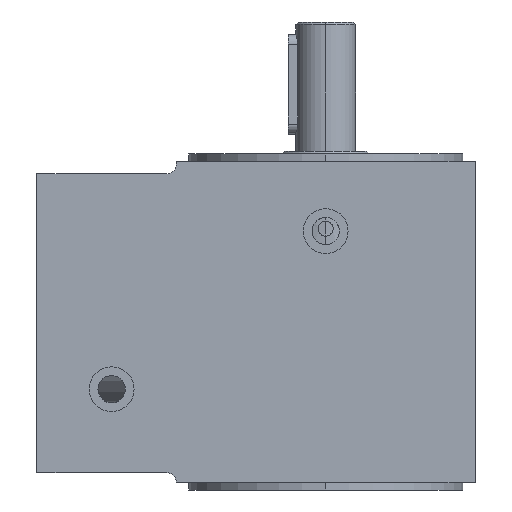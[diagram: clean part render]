
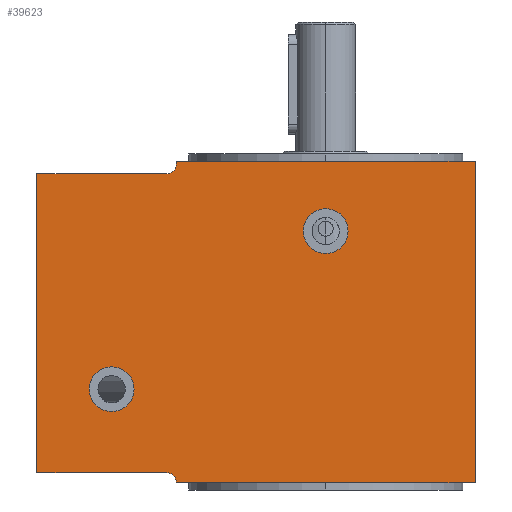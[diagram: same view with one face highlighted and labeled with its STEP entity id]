
A CAD part, left-side view. The second image highlights one B-rep face of the part: STEP entity #39623.
In plain terms, the highlighted planar face has unit normal (-1, 0, 0).
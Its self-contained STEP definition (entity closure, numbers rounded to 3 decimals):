
#366 = CARTESIAN_POINT ( 'NONE',  ( -69.952, 74.052, -53.525 ) ) ;
#542 = EDGE_CURVE ( 'NONE', #31078, #17754, #38828, .T. ) ;
#612 = AXIS2_PLACEMENT_3D ( 'NONE', #17945, #17891, #17794 ) ;
#1547 = CARTESIAN_POINT ( 'NONE',  ( -69.952, 39.052, 37.975 ) ) ;
#2292 = EDGE_CURVE ( 'NONE', #31782, #45188, #26033, .T. ) ;
#2301 = EDGE_CURVE ( 'NONE', #31782, #42775, #26654, .T. ) ;
#2344 = DIRECTION ( 'NONE',  ( 0., 1., 0. ) ) ;
#2433 = EDGE_CURVE ( 'NONE', #42775, #31410, #25262, .T. ) ;
#2532 = CARTESIAN_POINT ( 'NONE',  ( -69.952, 43.052, 32.975 ) ) ;
#2568 = EDGE_CURVE ( 'NONE', #36330, #31410, #24500, .T. ) ;
#2867 = EDGE_CURVE ( 'NONE', #36330, #5887, #22437, .T. ) ;
#2990 = EDGE_CURVE ( 'NONE', #5887, #17754, #21482, .T. ) ;
#3052 = EDGE_CURVE ( 'NONE', #31078, #41292, #21715, .T. ) ;
#3196 = EDGE_CURVE ( 'NONE', #41292, #45188, #20173, .T. ) ;
#4294 = CARTESIAN_POINT ( 'NONE',  ( -69.952, 56.052, -53.525 ) ) ;
#5186 = EDGE_CURVE ( 'NONE', #6718, #13200, #7958, .T. ) ;
#5311 = DIRECTION ( 'NONE',  ( 0., 0., 1. ) ) ;
#5340 = DIRECTION ( 'NONE',  ( 1., 0., 0. ) ) ;
#5387 = EDGE_CURVE ( 'NONE', #39405, #11529, #6885, .T. ) ;
#5400 = CARTESIAN_POINT ( 'NONE',  ( -69.952, 43.052, 36.975 ) ) ;
#5887 = VERTEX_POINT ( 'NONE', #32218 ) ;
#6099 = DIRECTION ( 'NONE',  ( 0., 0., -1. ) ) ;
#6154 = DIRECTION ( 'NONE',  ( 1., 0., 0. ) ) ;
#6475 = DIRECTION ( 'NONE',  ( 0., 1., 0. ) ) ;
#6487 = CARTESIAN_POINT ( 'NONE',  ( -69.952, -80.948, 37.975 ) ) ;
#6718 = VERTEX_POINT ( 'NONE', #9691 ) ;
#6885 = CIRCLE ( 'NONE', #30237, 9. ) ;
#7005 = ORIENTED_EDGE ( 'NONE', *, *, #43925, .F. ) ;
#7015 = EDGE_LOOP ( 'NONE', ( #22277, #22192 ) ) ;
#7215 = CARTESIAN_POINT ( 'NONE',  ( -69.952, 43.052, 32.975 ) ) ;
#7958 = CIRCLE ( 'NONE', #29692, 9. ) ;
#7967 = ORIENTED_EDGE ( 'NONE', *, *, #2301, .T. ) ;
#8399 = DIRECTION ( 'NONE',  ( 0., 0., 1. ) ) ;
#8408 = CARTESIAN_POINT ( 'NONE',  ( -69.952, -80.948, -91.025 ) ) ;
#9510 = PLANE ( 'NONE',  #32255 ) ;
#9691 = CARTESIAN_POINT ( 'NONE',  ( -69.952, -11.948, 9.975 ) ) ;
#9721 = CARTESIAN_POINT ( 'NONE',  ( -69.952, 43.052, 32.975 ) ) ;
#11175 = AXIS2_PLACEMENT_3D ( 'NONE', #18733, #18679, #18647 ) ;
#11529 = VERTEX_POINT ( 'NONE', #4294 ) ;
#11608 = ORIENTED_EDGE ( 'NONE', *, *, #542, .F. ) ;
#12550 = DIRECTION ( 'NONE',  ( 0., -1., 0. ) ) ;
#12646 = DIRECTION ( 'NONE',  ( -1., 0., 0. ) ) ;
#12698 = CARTESIAN_POINT ( 'NONE',  ( -69.952, -20.948, 9.975 ) ) ;
#13200 = VERTEX_POINT ( 'NONE', #32976 ) ;
#15212 = CARTESIAN_POINT ( 'NONE',  ( -69.952, -20.948, 9.975 ) ) ;
#16317 = DIRECTION ( 'NONE',  ( 0., 1., 0. ) ) ;
#16327 = CARTESIAN_POINT ( 'NONE',  ( -69.952, -80.948, -91.025 ) ) ;
#17754 = VERTEX_POINT ( 'NONE', #1547 ) ;
#17794 = DIRECTION ( 'NONE',  ( 0., -1., 0. ) ) ;
#17891 = DIRECTION ( 'NONE',  ( -1., 0., 0. ) ) ;
#17945 = CARTESIAN_POINT ( 'NONE',  ( -69.952, 65.052, -53.525 ) ) ;
#18647 = DIRECTION ( 'NONE',  ( 0., 0., 1. ) ) ;
#18679 = DIRECTION ( 'NONE',  ( 1., 0., 0. ) ) ;
#18733 = CARTESIAN_POINT ( 'NONE',  ( -69.952, 43.052, -91.025 ) ) ;
#18987 = DIRECTION ( 'NONE',  ( -1., 0., 0. ) ) ;
#19305 = CARTESIAN_POINT ( 'NONE',  ( -69.952, 95.052, -87.025 ) ) ;
#19752 = VECTOR ( 'NONE', #2344, 1000. ) ;
#19801 = DIRECTION ( 'NONE',  ( 0., -1., 0. ) ) ;
#20173 = LINE ( 'NONE', #2532, #19752 ) ;
#20840 = DIRECTION ( 'NONE',  ( 0., -1., 0. ) ) ;
#20880 = DIRECTION ( 'NONE',  ( 0., 0., 1. ) ) ;
#20996 = DIRECTION ( 'NONE',  ( 0., 0., 1. ) ) ;
#21027 = CARTESIAN_POINT ( 'NONE',  ( -69.952, 39.052, 32.975 ) ) ;
#21091 = CARTESIAN_POINT ( 'NONE',  ( -69.952, 43.052, -87.025 ) ) ;
#21385 = CARTESIAN_POINT ( 'NONE',  ( -69.952, 95.052, -87.025 ) ) ;
#21482 = LINE ( 'NONE', #6487, #21602 ) ;
#21602 = VECTOR ( 'NONE', #6475, 1000. ) ;
#21715 = CIRCLE ( 'NONE', #26933, 4. ) ;
#22192 = ORIENTED_EDGE ( 'NONE', *, *, #5186, .F. ) ;
#22277 = ORIENTED_EDGE ( 'NONE', *, *, #44132, .F. ) ;
#22437 = LINE ( 'NONE', #8408, #22746 ) ;
#22746 = VECTOR ( 'NONE', #8399, 1000. ) ;
#23652 = CIRCLE ( 'NONE', #612, 9. ) ;
#24274 = VECTOR ( 'NONE', #16317, 1000. ) ;
#24500 = LINE ( 'NONE', #16327, #24274 ) ;
#25262 = CIRCLE ( 'NONE', #11175, 4. ) ;
#25876 = VECTOR ( 'NONE', #20840, 1000. ) ;
#25969 = VECTOR ( 'NONE', #20996, 1000. ) ;
#26033 = LINE ( 'NONE', #21385, #25969 ) ;
#26294 = ORIENTED_EDGE ( 'NONE', *, *, #3052, .T. ) ;
#26324 = CARTESIAN_POINT ( 'NONE',  ( -69.952, 39.052, -91.025 ) ) ;
#26389 = CIRCLE ( 'NONE', #27555, 9. ) ;
#26654 = LINE ( 'NONE', #21091, #25876 ) ;
#26933 = AXIS2_PLACEMENT_3D ( 'NONE', #5400, #5340, #5311 ) ;
#27252 = ORIENTED_EDGE ( 'NONE', *, *, #2990, .T. ) ;
#27555 = AXIS2_PLACEMENT_3D ( 'NONE', #12698, #12646, #12550 ) ;
#28579 = ORIENTED_EDGE ( 'NONE', *, *, #5387, .F. ) ;
#28600 = ORIENTED_EDGE ( 'NONE', *, *, #2568, .F. ) ;
#29692 = AXIS2_PLACEMENT_3D ( 'NONE', #15212, #18987, #19801 ) ;
#30237 = AXIS2_PLACEMENT_3D ( 'NONE', #44406, #44417, #44455 ) ;
#31078 = VERTEX_POINT ( 'NONE', #36214 ) ;
#31410 = VERTEX_POINT ( 'NONE', #26324 ) ;
#31782 = VERTEX_POINT ( 'NONE', #19305 ) ;
#32218 = CARTESIAN_POINT ( 'NONE',  ( -69.952, -80.948, 37.975 ) ) ;
#32255 = AXIS2_PLACEMENT_3D ( 'NONE', #7215, #6154, #6099 ) ;
#32976 = CARTESIAN_POINT ( 'NONE',  ( -69.952, -29.948, 9.975 ) ) ;
#36214 = CARTESIAN_POINT ( 'NONE',  ( -69.952, 39.052, 36.975 ) ) ;
#36330 = VERTEX_POINT ( 'NONE', #37995 ) ;
#37590 = EDGE_LOOP ( 'NONE', ( #7005, #28579 ) ) ;
#37933 = EDGE_LOOP ( 'NONE', ( #43607, #7967, #44021, #28600, #39879, #27252, #11608, #26294, #39422 ) ) ;
#37995 = CARTESIAN_POINT ( 'NONE',  ( -69.952, -80.948, -91.025 ) ) ;
#38686 = CARTESIAN_POINT ( 'NONE',  ( -69.952, 43.052, -87.025 ) ) ;
#38828 = LINE ( 'NONE', #21027, #39288 ) ;
#39288 = VECTOR ( 'NONE', #20880, 1000. ) ;
#39405 = VERTEX_POINT ( 'NONE', #366 ) ;
#39422 = ORIENTED_EDGE ( 'NONE', *, *, #3196, .T. ) ;
#39623 = ADVANCED_FACE ( 'NONE', ( #39710, #40184, #40230 ), #9510, .F. ) ;
#39710 = FACE_BOUND ( 'NONE', #7015, .T. ) ;
#39879 = ORIENTED_EDGE ( 'NONE', *, *, #2867, .T. ) ;
#40184 = FACE_OUTER_BOUND ( 'NONE', #37933, .T. ) ;
#40230 = FACE_BOUND ( 'NONE', #37590, .T. ) ;
#41292 = VERTEX_POINT ( 'NONE', #9721 ) ;
#42775 = VERTEX_POINT ( 'NONE', #38686 ) ;
#43607 = ORIENTED_EDGE ( 'NONE', *, *, #2292, .F. ) ;
#43785 = CARTESIAN_POINT ( 'NONE',  ( -69.952, 95.052, 32.975 ) ) ;
#43925 = EDGE_CURVE ( 'NONE', #11529, #39405, #23652, .T. ) ;
#44021 = ORIENTED_EDGE ( 'NONE', *, *, #2433, .T. ) ;
#44132 = EDGE_CURVE ( 'NONE', #13200, #6718, #26389, .T. ) ;
#44406 = CARTESIAN_POINT ( 'NONE',  ( -69.952, 65.052, -53.525 ) ) ;
#44417 = DIRECTION ( 'NONE',  ( -1., 0., 0. ) ) ;
#44455 = DIRECTION ( 'NONE',  ( 0., -1., 0. ) ) ;
#45188 = VERTEX_POINT ( 'NONE', #43785 ) ;
